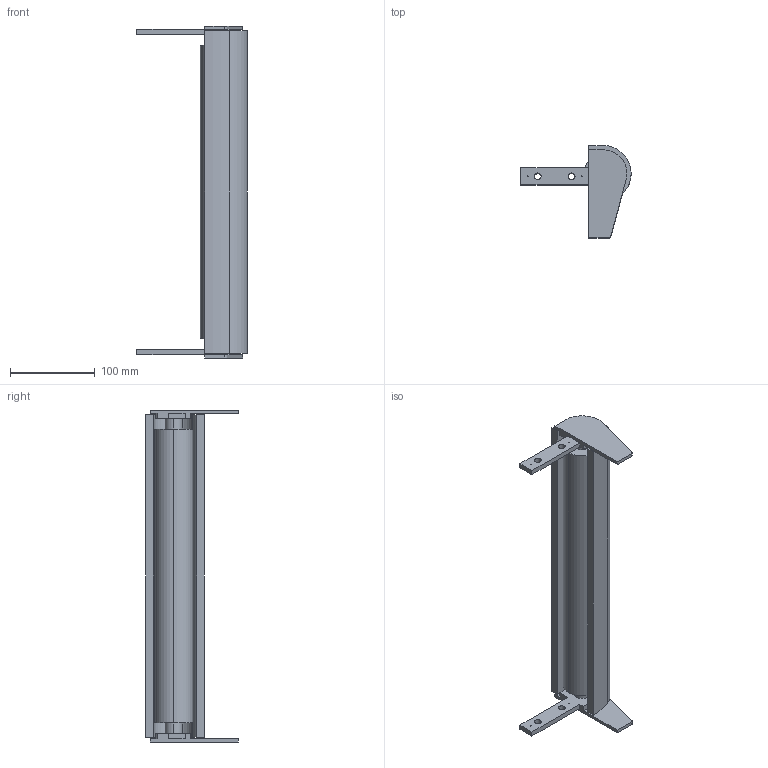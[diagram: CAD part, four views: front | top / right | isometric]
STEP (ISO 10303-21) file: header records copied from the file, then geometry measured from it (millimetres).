
FILE_DESCRIPTION (( 'STEP AP214' ), '1' );
FILE_NAME ('FS-160-MTS-100.ALU omloop 390.STEP', '2017-02-08T12:09:09', ( '' ), ( '' ), 'SwSTEP 2.0', 'SolidWorks 2016', '' );
FILE_SCHEMA (( 'AUTOMOTIVE_DESIGN' ));
Length unit declared in the file: millimetre
Products named in the file (1): FS-160-MTS-100.ALU omloop 390
Bounding box: 130.3 x 109 x 392 mm (x, y, z)
Volume: 1043050.4 mm3; surface area: 184181.7 mm2
Topology: 2 solids, 2 shells, 70 faces, 186 edges, 124 vertices
Faces by surface type: cylinder 36, plane 34
Entity records: 2277 total; most frequent: DIRECTION 400, CARTESIAN_POINT 381, ORIENTED_EDGE 372, EDGE_CURVE 186, AXIS2_PLACEMENT_3D 143, VERTEX_POINT 124, LINE 114, VECTOR 114
